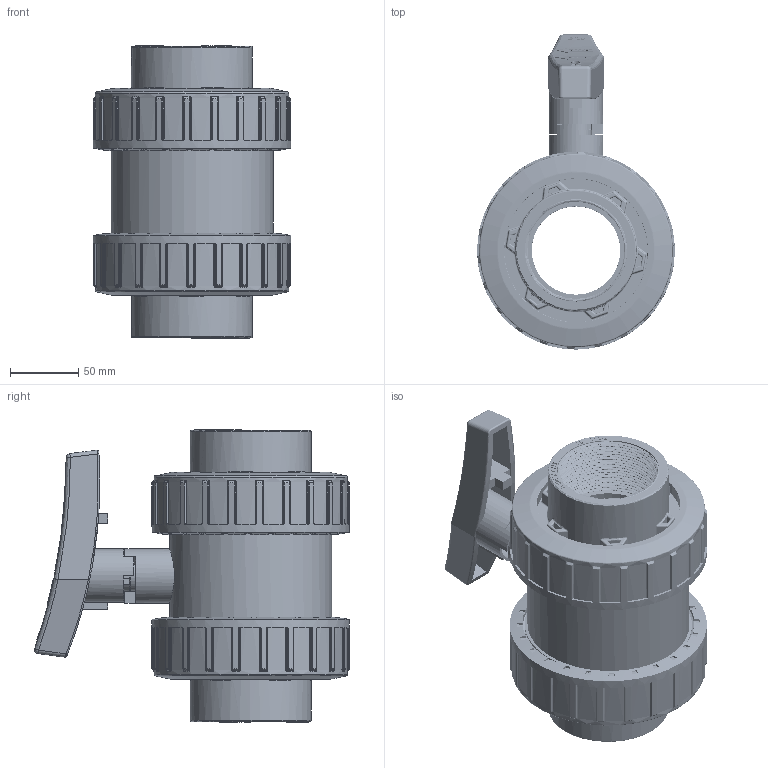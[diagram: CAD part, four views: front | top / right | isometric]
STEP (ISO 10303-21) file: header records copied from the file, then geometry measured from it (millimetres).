
FILE_DESCRIPTION(/* description */ (''),/* implementation_level */ '2;1');
FILE_NAME(/* name */ 'C:\ex desktop\VALVOLE SFERA\BV ACQUA\VALVOLE ACQUA FILETTATE\BVD41075\BVD41075_new_handle.stp',/* time_stamp */ '2019-04-02T15:13:24+02:00',/* author */ ('e.sacchi'),/* organization */ (''),/* preprocessor_version */ 'ST-DEVELOPER v16.13',/* originating_system */ 'Autodesk Inventor 2018',/* authorisation */ '');
FILE_SCHEMA (('AUTOMOTIVE_DESIGN { 1 0 10303 214 3 1 1 }'));
Length unit declared in the file: millimetre
Products named in the file (14): BVD40075iam; corpo_BVD_40_D_75; LAV0174E; sfera_BVI_10_d_75; asta_BVD_40_d_75; supporto_BVD_40_d_75; PTFE_BVI_10_d_75; LAV0174E_sotto_ptfe_d75; LAV4350E; LAV6312E; collare_BVD_40_d_75; ghiera_BVD_40_d_75; maniglia_BVI_10_d_75; LAV3075E
Assembly tree (18 placements, depth 2):
  BVD40075iam
    corpo_BVD_40_D_75
    LAV0174E
    PTFE_BVI_10_d_75  x2
    sfera_BVI_10_d_75
    asta_BVD_40_d_75
    supporto_BVD_40_d_75
    LAV0174E_sotto_ptfe_d75
    LAV4350E
    LAV6312E  x2
    collare_BVD_40_d_75  x2
    ghiera_BVD_40_d_75  x2
    maniglia_BVI_10_d_75
    LAV3075E  x2
Bounding box: 144.98 x 231.19 x 214.65 mm (x, y, z)
Volume: 1687568.5 mm3; surface area: 589276.9 mm2
Topology: 22 solids, 22 shells, 2669 faces, 6702 edges, 4162 vertices
Faces by surface type: plane 1098, cylinder 605, bspline 519, torus 252, sphere 141, cone 54
Full cylindrical faces by diameter (mm): 9.7 x1, 12 x1, 19.6 x2, 23 x4, 23.5 x1, 32.75 x1, 39.6 x1, 40 x1, 65 x5, 70 x1, 71 x1, 75.18 x4, 78 x1, 78.5 x1, 80 x4, 88.9 x2, 90 x1, 91 x1, 98.8 x1, 99 x2, 101 x5, 103 x5, 110 x1, 119 x15, 126 x14, 142 x2, 145 x2
Entity records: 71977 total; most frequent: CARTESIAN_POINT 34129, ORIENTED_EDGE 8058, DIRECTION 7357, EDGE_CURVE 4027, AXIS2_PLACEMENT_3D 2720, VERTEX_POINT 2555, LINE 1917, VECTOR 1917
